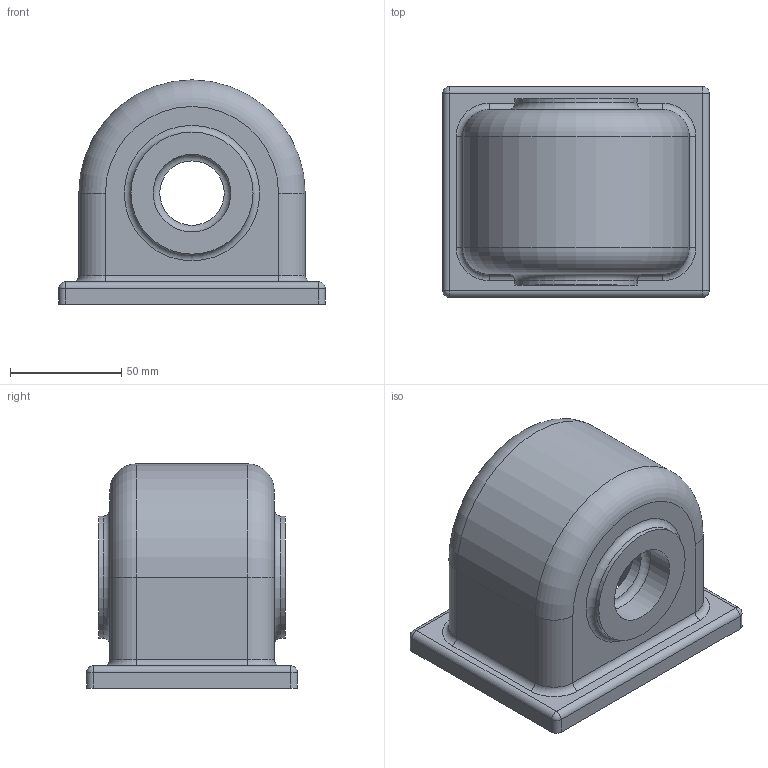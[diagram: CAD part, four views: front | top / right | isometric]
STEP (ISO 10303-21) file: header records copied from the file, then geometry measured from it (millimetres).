
FILE_DESCRIPTION(/* description */ (''),/* implementation_level */ '2;1');
FILE_NAME(/* name */ 'C:\Users\한국경영원\Desktop\380824E1007\1.본체.stp',/* time_stamp */ '2018-08-18T15:44:40+09:00',/* author */ ('한국경영원'),/* organization */ (''),/* preprocessor_version */ 'ST-DEVELOPER v16.1',/* originating_system */ 'Autodesk Inventor 2016',/* authorisation */ '');
FILE_SCHEMA (('AUTOMOTIVE_DESIGN { 1 0 10303 214 3 1 1 }'));
Length unit declared in the file: millimetre
Products named in the file (1): 1.본체
Bounding box: 120 x 95 x 101 mm (x, y, z)
Volume: 340587.2 mm3; surface area: 76248.4 mm2
Topology: 1 solids, 1 shells, 66 faces, 138 edges, 80 vertices
Faces by surface type: cylinder 30, plane 18, torus 14, sphere 4
Full cylindrical faces by diameter (mm): 29 x2, 35 x2, 55 x2, 62 x2
Entity records: 1708 total; most frequent: DIRECTION 330, CARTESIAN_POINT 271, ORIENTED_EDGE 248, AXIS2_PLACEMENT_3D 139, EDGE_CURVE 124, EDGE_LOOP 90, VERTEX_POINT 80, CIRCLE 72
